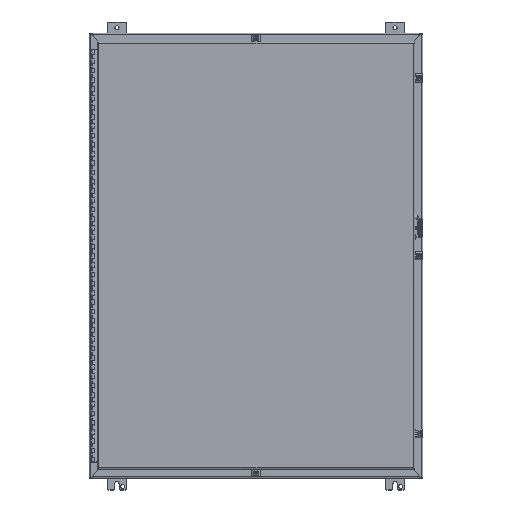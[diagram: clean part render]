
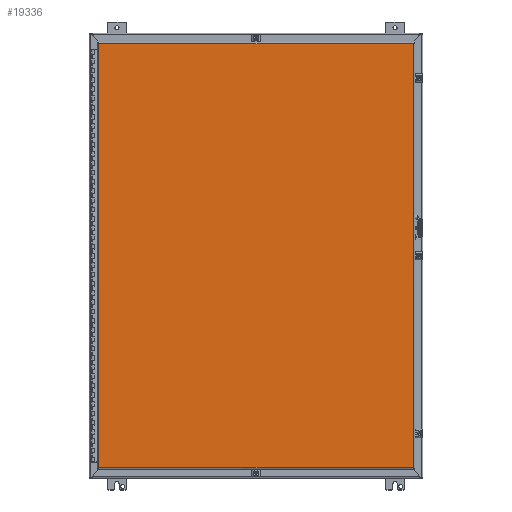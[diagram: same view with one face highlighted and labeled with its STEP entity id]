
A CAD part, top view. The second image highlights one B-rep face of the part: STEP entity #19336.
In plain terms, the highlighted planar face has unit normal (0, 0, 1) as drawn and (0, 1, 0) by its records, which use the part's own axes.
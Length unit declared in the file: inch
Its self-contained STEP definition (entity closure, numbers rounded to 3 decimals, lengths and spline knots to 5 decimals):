
#17347=DIRECTION('',(0.,0.,1.));
#17348=VECTOR('',#17347,33.96);
#17349=CARTESIAN_POINT('',(-22.88638,0.,0.145));
#17350=LINE('',#17349,#17348);
#17397=DIRECTION('',(0.,0.,1.));
#17398=VECTOR('',#17397,33.96);
#17399=CARTESIAN_POINT('',(22.88638,0.,0.145));
#17400=LINE('',#17399,#17398);
#17499=DIRECTION('',(-1.,0.,0.));
#17500=VECTOR('',#17499,45.77275);
#17501=CARTESIAN_POINT('',(22.88638,0.,0.145));
#17502=LINE('',#17501,#17500);
#18343=DIRECTION('',(-1.,0.,0.));
#18344=VECTOR('',#18343,45.77275);
#18345=CARTESIAN_POINT('',(22.88638,0.,34.105));
#18346=LINE('',#18345,#18344);
#18627=CARTESIAN_POINT('',(22.88638,0.,0.145));
#18628=CARTESIAN_POINT('',(-22.88638,0.,0.145));
#18629=VERTEX_POINT('',#18627);
#18630=VERTEX_POINT('',#18628);
#18631=CARTESIAN_POINT('',(22.88638,0.,34.105));
#18632=CARTESIAN_POINT('',(-22.88638,0.,34.105));
#18633=VERTEX_POINT('',#18631);
#18634=VERTEX_POINT('',#18632);
#19322=CARTESIAN_POINT('',(23.03138,0.,0.));
#19323=DIRECTION('',(0.,1.,0.));
#19324=DIRECTION('',(-1.,0.,0.));
#19325=AXIS2_PLACEMENT_3D('',#19322,#19323,#19324);
#19326=PLANE('',#19325);
#19328=ORIENTED_EDGE('',*,*,#19327,.T.);
#19330=ORIENTED_EDGE('',*,*,#19329,.T.);
#19331=ORIENTED_EDGE('',*,*,#19312,.F.);
#19333=ORIENTED_EDGE('',*,*,#19332,.F.);
#19334=EDGE_LOOP('',(#19328,#19330,#19331,#19333));
#19335=FACE_OUTER_BOUND('',#19334,.F.);
#19312=EDGE_CURVE('',#18630,#18634,#17350,.T.);
#19327=EDGE_CURVE('',#18629,#18633,#17400,.T.);
#19329=EDGE_CURVE('',#18633,#18634,#18346,.T.);
#19332=EDGE_CURVE('',#18629,#18630,#17502,.T.);
#19336=ADVANCED_FACE('',(#19335),#19326,.T.);
